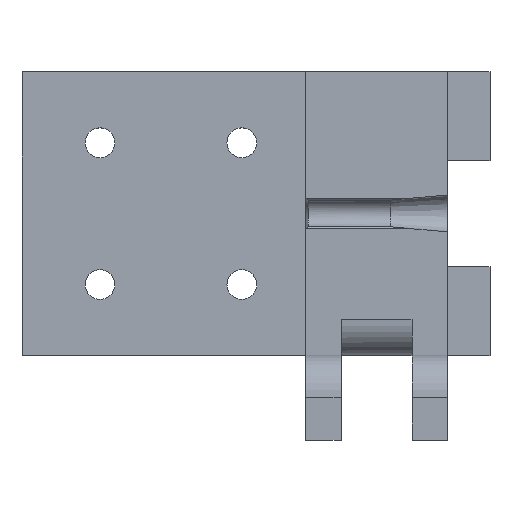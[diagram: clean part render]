
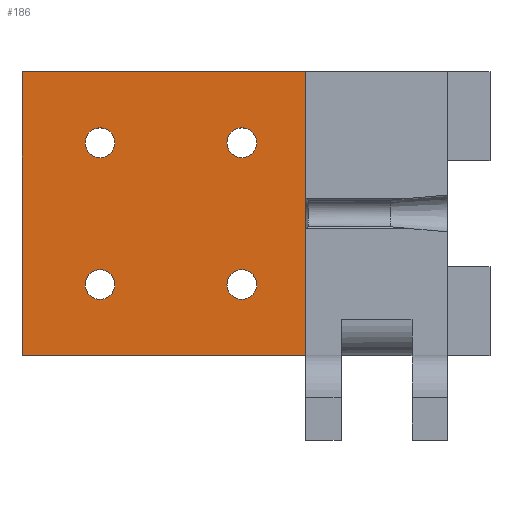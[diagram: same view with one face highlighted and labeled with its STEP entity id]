
A CAD part, top view. The second image highlights one B-rep face of the part: STEP entity #186.
In plain terms, the highlighted planar face has unit normal (0, 0, 1).
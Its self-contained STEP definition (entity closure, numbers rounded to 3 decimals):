
#55=AXIS2_PLACEMENT_3D('Circle Axis2P3D',#53,#54,$) ;
#79=AXIS2_PLACEMENT_3D('Circle Axis2P3D',#77,#78,$) ;
#92=AXIS2_PLACEMENT_3D('Plane Axis2P3D',#89,#90,#91) ;
#134=AXIS2_PLACEMENT_3D('Circle Axis2P3D',#132,#133,$) ;
#143=AXIS2_PLACEMENT_3D('Circle Axis2P3D',#141,#142,$) ;
#152=AXIS2_PLACEMENT_3D('Circle Axis2P3D',#150,#151,$) ;
#161=AXIS2_PLACEMENT_3D('Circle Axis2P3D',#159,#160,$) ;
#170=AXIS2_PLACEMENT_3D('Circle Axis2P3D',#168,#169,$) ;
#179=AXIS2_PLACEMENT_3D('Circle Axis2P3D',#177,#178,$) ;
#50=CARTESIAN_POINT('Vertex',(-11.1,10.,-16.5)) ;
#53=CARTESIAN_POINT('Axis2P3D Location',(-9.,10.,-16.5)) ;
#57=CARTESIAN_POINT('Vertex',(-6.9,10.,-16.5)) ;
#77=CARTESIAN_POINT('Axis2P3D Location',(-9.,10.,-16.5)) ;
#89=CARTESIAN_POINT('Axis2P3D Location',(-10.,-10.,-16.5)) ;
#94=CARTESIAN_POINT('Line Origine',(20.,0.,-16.5)) ;
#98=CARTESIAN_POINT('Vertex',(20.,20.,-16.5)) ;
#100=CARTESIAN_POINT('Vertex',(20.,-20.,-16.5)) ;
#103=CARTESIAN_POINT('Line Origine',(0.,20.,-16.5)) ;
#107=CARTESIAN_POINT('Vertex',(-20.,20.,-16.5)) ;
#110=CARTESIAN_POINT('Line Origine',(-20.,0.,-16.5)) ;
#114=CARTESIAN_POINT('Vertex',(-20.,-20.,-16.5)) ;
#117=CARTESIAN_POINT('Line Origine',(0.,-20.,-16.5)) ;
#132=CARTESIAN_POINT('Axis2P3D Location',(11.,10.,-16.5)) ;
#136=CARTESIAN_POINT('Vertex',(13.1,10.,-16.5)) ;
#138=CARTESIAN_POINT('Vertex',(8.9,10.,-16.5)) ;
#141=CARTESIAN_POINT('Axis2P3D Location',(11.,10.,-16.5)) ;
#150=CARTESIAN_POINT('Axis2P3D Location',(11.,-10.,-16.5)) ;
#154=CARTESIAN_POINT('Vertex',(13.1,-10.,-16.5)) ;
#156=CARTESIAN_POINT('Vertex',(8.9,-10.,-16.5)) ;
#159=CARTESIAN_POINT('Axis2P3D Location',(11.,-10.,-16.5)) ;
#168=CARTESIAN_POINT('Axis2P3D Location',(-9.,-10.,-16.5)) ;
#172=CARTESIAN_POINT('Vertex',(-6.9,-10.,-16.5)) ;
#174=CARTESIAN_POINT('Vertex',(-11.1,-10.,-16.5)) ;
#177=CARTESIAN_POINT('Axis2P3D Location',(-9.,-10.,-16.5)) ;
#54=DIRECTION('Axis2P3D Direction',(0.,-0.,1.)) ;
#78=DIRECTION('Axis2P3D Direction',(0.,-0.,1.)) ;
#90=DIRECTION('Axis2P3D Direction',(0.,-0.,1.)) ;
#91=DIRECTION('Axis2P3D XDirection',(1.,0.,0.)) ;
#95=DIRECTION('Vector Direction',(0.,1.,0.)) ;
#104=DIRECTION('Vector Direction',(1.,0.,0.)) ;
#111=DIRECTION('Vector Direction',(0.,1.,0.)) ;
#118=DIRECTION('Vector Direction',(1.,0.,0.)) ;
#133=DIRECTION('Axis2P3D Direction',(0.,-0.,1.)) ;
#142=DIRECTION('Axis2P3D Direction',(0.,-0.,1.)) ;
#151=DIRECTION('Axis2P3D Direction',(0.,-0.,1.)) ;
#160=DIRECTION('Axis2P3D Direction',(0.,-0.,1.)) ;
#169=DIRECTION('Axis2P3D Direction',(0.,-0.,1.)) ;
#178=DIRECTION('Axis2P3D Direction',(0.,-0.,1.)) ;
#96=VECTOR('Line Direction',#95,1.) ;
#105=VECTOR('Line Direction',#104,1.) ;
#112=VECTOR('Line Direction',#111,1.) ;
#119=VECTOR('Line Direction',#118,1.) ;
#123=ORIENTED_EDGE('',*,*,#102,.F.) ;
#124=ORIENTED_EDGE('',*,*,#109,.F.) ;
#125=ORIENTED_EDGE('',*,*,#116,.T.) ;
#126=ORIENTED_EDGE('',*,*,#121,.T.) ;
#129=ORIENTED_EDGE('',*,*,#81,.F.) ;
#130=ORIENTED_EDGE('',*,*,#59,.F.) ;
#147=ORIENTED_EDGE('',*,*,#140,.F.) ;
#148=ORIENTED_EDGE('',*,*,#145,.F.) ;
#165=ORIENTED_EDGE('',*,*,#158,.F.) ;
#166=ORIENTED_EDGE('',*,*,#163,.F.) ;
#183=ORIENTED_EDGE('',*,*,#176,.F.) ;
#184=ORIENTED_EDGE('',*,*,#181,.F.) ;
#131=FACE_BOUND('',#128,.T.) ;
#149=FACE_BOUND('',#146,.T.) ;
#167=FACE_BOUND('',#164,.T.) ;
#185=FACE_BOUND('',#182,.T.) ;
#186=ADVANCED_FACE('\X2\96F64EF651E04F554F53\X0\',(#127,#131,#149,#167,#185),#93,.T.) ;
#56=CIRCLE('generated circle',#55,2.1) ;
#80=CIRCLE('generated circle',#79,2.1) ;
#135=CIRCLE('generated circle',#134,2.1) ;
#144=CIRCLE('generated circle',#143,2.1) ;
#153=CIRCLE('generated circle',#152,2.1) ;
#162=CIRCLE('generated circle',#161,2.1) ;
#171=CIRCLE('generated circle',#170,2.1) ;
#180=CIRCLE('generated circle',#179,2.1) ;
#59=EDGE_CURVE('',#51,#58,#56,.T.) ;
#81=EDGE_CURVE('',#58,#51,#80,.T.) ;
#102=EDGE_CURVE('',#99,#101,#97,.F.) ;
#109=EDGE_CURVE('',#108,#99,#106,.T.) ;
#116=EDGE_CURVE('',#108,#115,#113,.F.) ;
#121=EDGE_CURVE('',#115,#101,#120,.T.) ;
#140=EDGE_CURVE('',#137,#139,#135,.T.) ;
#145=EDGE_CURVE('',#139,#137,#144,.T.) ;
#158=EDGE_CURVE('',#155,#157,#153,.T.) ;
#163=EDGE_CURVE('',#157,#155,#162,.T.) ;
#176=EDGE_CURVE('',#173,#175,#171,.T.) ;
#181=EDGE_CURVE('',#175,#173,#180,.T.) ;
#122=EDGE_LOOP('',(#123,#124,#125,#126)) ;
#128=EDGE_LOOP('',(#129,#130)) ;
#146=EDGE_LOOP('',(#147,#148)) ;
#164=EDGE_LOOP('',(#165,#166)) ;
#182=EDGE_LOOP('',(#183,#184)) ;
#127=FACE_OUTER_BOUND('',#122,.T.) ;
#97=LINE('Line',#94,#96) ;
#106=LINE('Line',#103,#105) ;
#113=LINE('Line',#110,#112) ;
#120=LINE('Line',#117,#119) ;
#93=PLANE('',#92) ;
#51=VERTEX_POINT('',#50) ;
#58=VERTEX_POINT('',#57) ;
#99=VERTEX_POINT('',#98) ;
#101=VERTEX_POINT('',#100) ;
#108=VERTEX_POINT('',#107) ;
#115=VERTEX_POINT('',#114) ;
#137=VERTEX_POINT('',#136) ;
#139=VERTEX_POINT('',#138) ;
#155=VERTEX_POINT('',#154) ;
#157=VERTEX_POINT('',#156) ;
#173=VERTEX_POINT('',#172) ;
#175=VERTEX_POINT('',#174) ;
